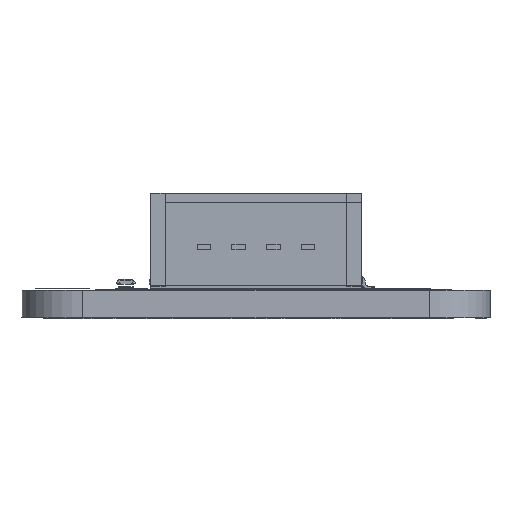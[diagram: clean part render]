
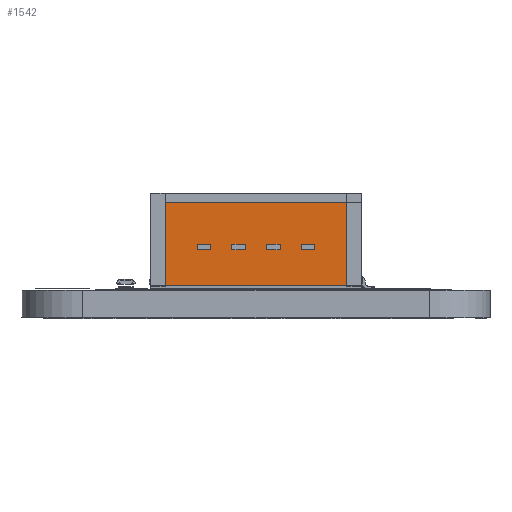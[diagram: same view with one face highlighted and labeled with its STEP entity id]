
A CAD part, left-side view. The second image highlights one B-rep face of the part: STEP entity #1542.
In plain terms, the highlighted planar face has unit normal (-1, 0, 0).
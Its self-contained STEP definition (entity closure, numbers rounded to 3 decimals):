
#1542=ADVANCED_FACE('',(#9292),#121780,.T.);
#9292=FACE_OUTER_BOUND('',#16576,.T.);
#16576=EDGE_LOOP('',(#25701,#25702,#25703,#25704));
#25701=ORIENTED_EDGE('',*,*,#63754,.F.);
#25702=ORIENTED_EDGE('',*,*,#63756,.T.);
#25703=ORIENTED_EDGE('',*,*,#63757,.T.);
#25704=ORIENTED_EDGE('',*,*,#63758,.T.);
#63754=EDGE_CURVE('',#106726,#106727,#84944,.T.);
#63756=EDGE_CURVE('',#106726,#106728,#84946,.T.);
#63757=EDGE_CURVE('',#106728,#106729,#84947,.T.);
#63758=EDGE_CURVE('',#106729,#106727,#84948,.T.);
#84944=B_SPLINE_CURVE_WITH_KNOTS('',1,(#151702,#151703),.UNSPECIFIED.,.F.,
 .F.,(2,2),(0.,4.9),.UNSPECIFIED.);
#84946=B_SPLINE_CURVE_WITH_KNOTS('',1,(#151706,#151707),.UNSPECIFIED.,.F.,
 .F.,(2,2),(0.,10.465),.UNSPECIFIED.);
#84947=B_SPLINE_CURVE_WITH_KNOTS('',1,(#151708,#151709),.UNSPECIFIED.,.F.,
 .F.,(2,2),(0.,4.9),.UNSPECIFIED.);
#84948=B_SPLINE_CURVE_WITH_KNOTS('',1,(#151710,#151711),.UNSPECIFIED.,.F.,
 .F.,(2,2),(0.,10.465),.UNSPECIFIED.);
#106726=VERTEX_POINT('',#151692);
#106727=VERTEX_POINT('',#151693);
#106728=VERTEX_POINT('',#151694);
#106729=VERTEX_POINT('',#151695);
#121780=PLANE('',#127632);
#127632=AXIS2_PLACEMENT_3D('',#151685,#137297,$);
#137297=DIRECTION('',(-1.,0.,0.));
#151685=CARTESIAN_POINT('',(-10.767,-6.279,7.175));
#151692=CARTESIAN_POINT('',(-10.766,-5.232,6.685));
#151693=CARTESIAN_POINT('',(-10.766,-5.232,1.785));
#151694=CARTESIAN_POINT('',(-10.766,5.232,6.685));
#151695=CARTESIAN_POINT('',(-10.766,5.232,1.785));
#151702=CARTESIAN_POINT('',(-10.766,-5.232,6.685));
#151703=CARTESIAN_POINT('',(-10.766,-5.232,1.785));
#151706=CARTESIAN_POINT('',(-10.766,-5.232,6.685));
#151707=CARTESIAN_POINT('',(-10.766,5.232,6.685));
#151708=CARTESIAN_POINT('',(-10.766,5.232,6.685));
#151709=CARTESIAN_POINT('',(-10.766,5.232,1.785));
#151710=CARTESIAN_POINT('',(-10.766,5.232,1.785));
#151711=CARTESIAN_POINT('',(-10.766,-5.232,1.785));
